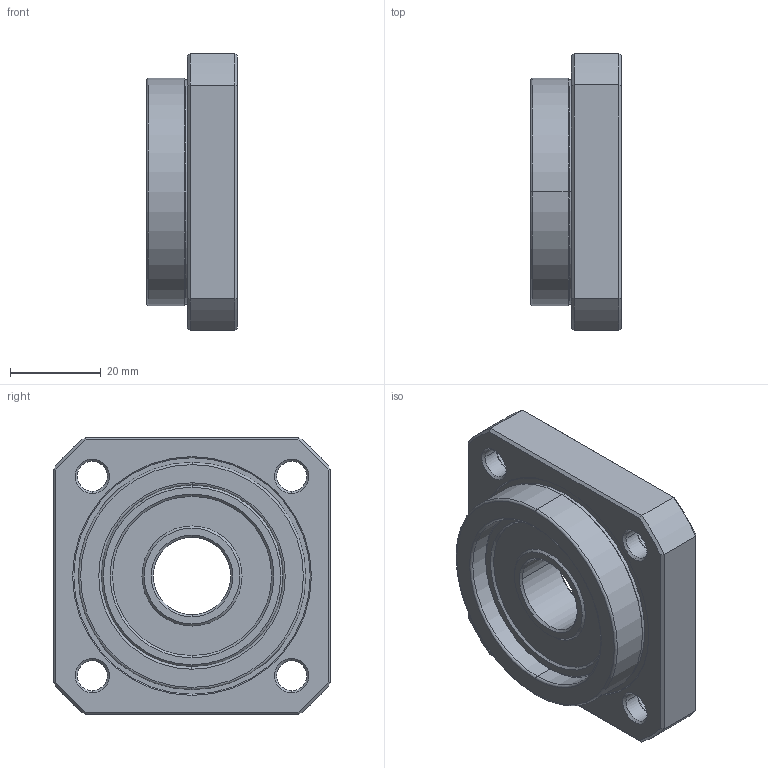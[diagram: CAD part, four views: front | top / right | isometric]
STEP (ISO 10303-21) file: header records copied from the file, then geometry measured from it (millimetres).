
FILE_DESCRIPTION (( 'STEP AP214' ), '1' );
FILE_NAME ('7.4040 FF17.STEP', '2026-03-18T11:25:11', ( '' ), ( '' ), 'SwSTEP 2.0', 'SolidWorks 2025', '' );
FILE_SCHEMA (( 'AUTOMOTIVE_DESIGN' ));
Length unit declared in the file: millimetre
Products named in the file (3): ZC-17; FF17; 7.4040 FF17
Assembly tree (2 placements, depth 2):
  7.4040 FF17
    FF17
    ZC-17
Bounding box: 20 x 61 x 61 mm (x, y, z)
Volume: 40846.9 mm3; surface area: 16120.1 mm2
Topology: 2 solids, 2 shells, 124 faces, 300 edges, 190 vertices
Faces by surface type: cone 54, cylinder 38, plane 26, torus 6
Entity records: 5104 total; most frequent: DIRECTION 722, CARTESIAN_POINT 683, ORIENTED_EDGE 600, AXIS2_PLACEMENT_3D 309, EDGE_CURVE 300, VERTEX_POINT 190, CIRCLE 180, EDGE_LOOP 146
